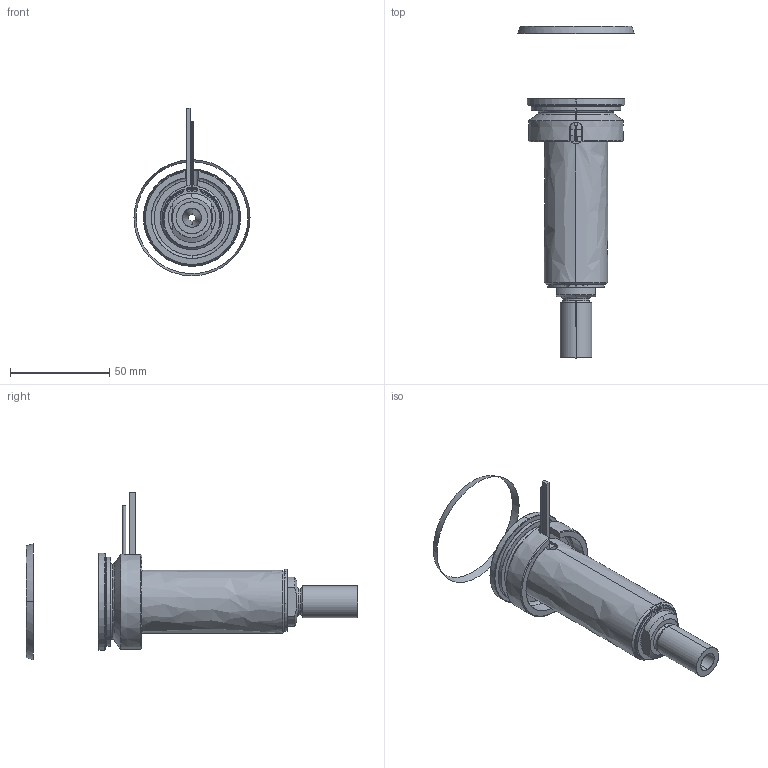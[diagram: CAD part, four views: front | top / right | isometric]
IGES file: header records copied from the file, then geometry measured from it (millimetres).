
Start section: SolidWorks IGES file using analytic representation for surfaces
Global section: file name: C:\Documents and Settings\ws-20\Desktop\TEMPORANEA\UGBE5002-S-A-P-5 [Ød-3.5 P-25 ØC-13].IGS; native system: SolidWorks 2012; preprocessor: SolidWorks 2012; author: ws-20; date: 120306.161951; units: millimetre
Bounding box: 58.57 x 167.44 x 84.59 mm (x, y, z)
Surface area: 43257.2 mm2 (no closed solid volume)
Topology: 0 solids, 0 shells, 111 faces, 2122 edges, 2122 vertices
Faces by surface type: revolution 68, bspline 43
